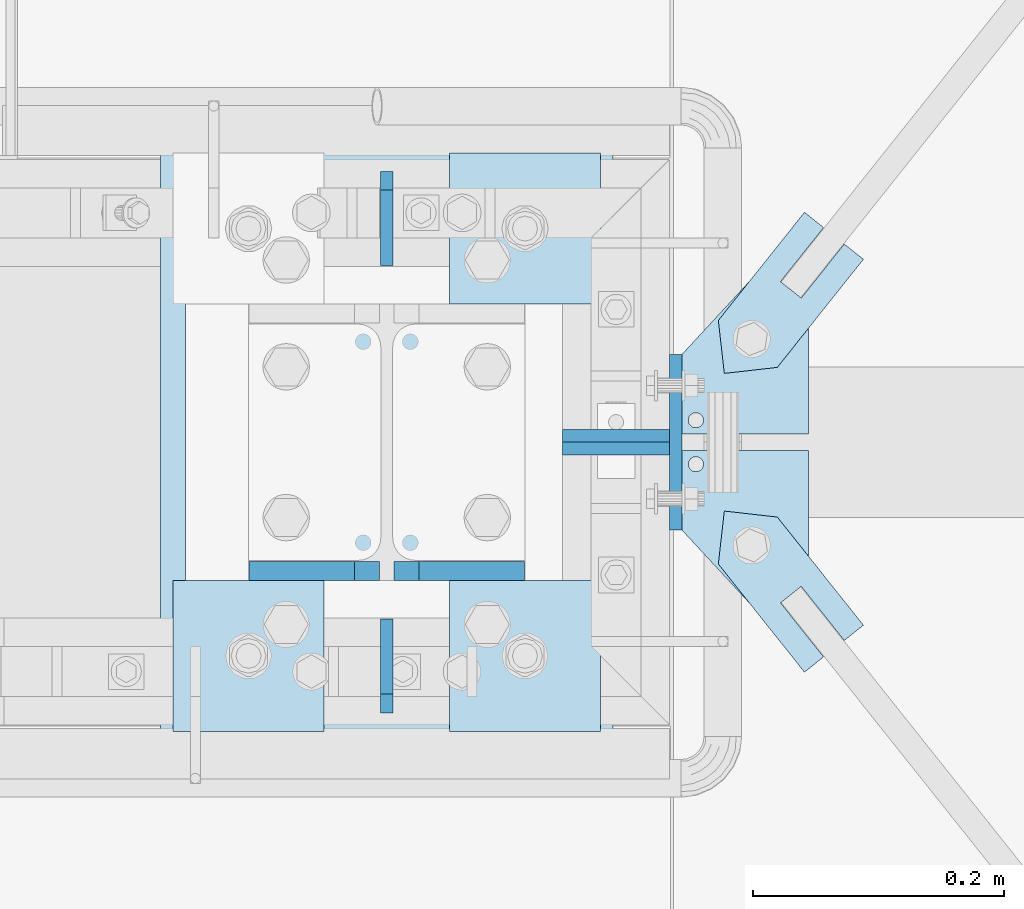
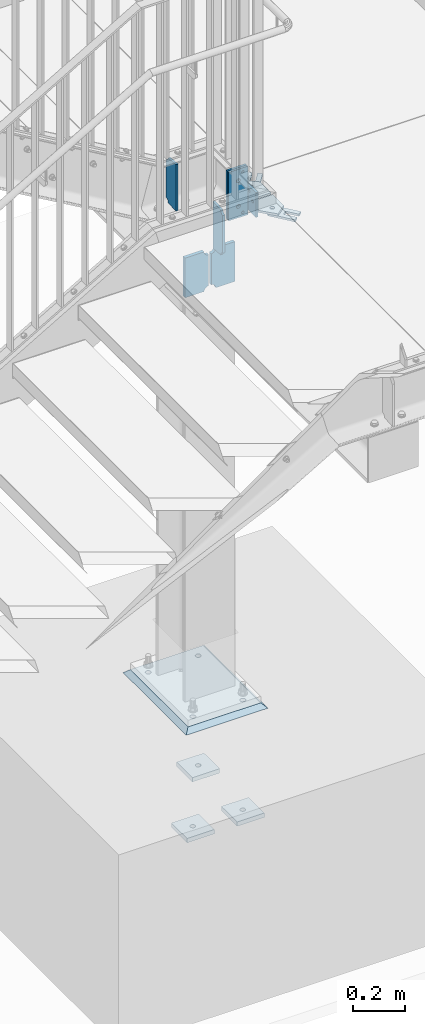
# One storey, part 24 of 145: 15 plates, 41 openings.
"""IFC2X3 building model written with IfcOpenShell, lengths in millimetres."""

from ifc_helpers import new_model, entity, si_unit, converted_unit, point, frame, frame_2d, origin, origin_with_axes, origin_2d_with_axis, place, context, project, spatial, polyline, circle_curve, line_curve, trimmed, segment, composite_curve, circle, outline, extrude, material, layer, layer_set, element, save


model = new_model("IFC2X3")

# Units and contexts
model_context = context("Model", 3, precision=1e-09, world=origin_with_axes())
ifc_project = project(units=[si_unit("LENGTHUNIT", "METRE", prefix="MILLI"), si_unit("AREAUNIT", "SQUARE_METRE"), si_unit("VOLUMEUNIT", "CUBIC_METRE"), converted_unit("PLANEANGLEUNIT", "DEGREE", entity("IfcPlaneAngleMeasure", 0.01745329), si_unit("PLANEANGLEUNIT", "RADIAN"), dimensions=[0, 0, 0, 0, 0, 0, 0])], contexts=[model_context])

# Site, building, storey
site_placement = place(None, origin_with_axes())
site = spatial("IfcSite", under=ifc_project, at=site_placement, Name="BZ1 Grund- und Mittelschule 85716 Unterschlei?heim", CompositionType="ELEMENT")
building_placement = place(site_placement, origin_with_axes())
building = spatial("IfcBuilding", under=site, at=building_placement, Name="Struktur 1", CompositionType="ELEMENT")
storey_placement = place(building_placement, origin_with_axes())
storey = spatial("IfcBuildingStorey", under=building, at=storey_placement, Name="Default Storey", CompositionType="ELEMENT", Elevation=0.0)

# Plate, openings
ifc_material = material(Name="S235JR")
ifc_layer_1 = layer(ifc_material, 15.0)
ifc_layer_set_1 = layer_set([ifc_layer_1], Name="S235JR")
plate_1_placement = place(None, frame((20205.09472732, -1790.002, 1171.136364), z_axis=(0.0, 1.0, 0.0), x_axis=(-1.0, 0.0, 0.0)))
plate_1 = element("IfcPlate", 1, at=plate_1_placement, inside=storey, material=ifc_layer_set_1, Name="Stiffener#0", ObjectType="Stiffener#0", context=model_context, shape_type="SweptSolid", body=[
    extrude(outline(polyline([(0.0, 0.0), (104.0, 0.0), (104.0, 185.0), (0.0, 185.0), (0.0, 0.0)])), origin_with_axes(), (0.0, 0.0, -1.0), 15.0),
])
opening_1_placement = place(plate_1_placement, frame((0.0, 185.0, 0.01), z_axis=(0.0, 0.0, 1.0), x_axis=(0.0, -1.0, 0.0)))
element("IfcOpeningElement", 2, at=opening_1_placement, cuts=plate_1, ObjectType="Opening", context=model_context, shape_type="SweptSolid", body=[
    extrude(outline(composite_curve([segment(trimmed(line_curve((0.0, 0.0), (1.0, 0.0), 20.0), [point((0.0, 0.0))], [point((20.0, 0.0))], True, "CARTESIAN"), True, "CONTINUOUS"), segment(trimmed(circle_curve(origin_2d_with_axis(), 20.0), [point((20.0, 0.0))], [point((0.0, 20.0))], True, "CARTESIAN"), True, "CONTINUOUS"), segment(trimmed(line_curve((0.0, 20.0), (0.0, -1.0), 20.0), [point((0.0, 20.0))], [point((0.0, 0.0))], True, "CARTESIAN"), True, "CONTINUOUS")], self_intersect=False)), origin(), (0.0, 0.0, -1.0), 15.02),
])
opening_2_placement = place(plate_1_placement, frame((0.0, 0.0, 0.01), z_axis=(0.0, 0.0, 1.0), x_axis=(1.0, 0.0, 0.0)))
element("IfcOpeningElement", 3, at=opening_2_placement, cuts=plate_1, ObjectType="Opening", context=model_context, shape_type="SweptSolid", body=[
    extrude(outline(composite_curve([segment(trimmed(line_curve((0.0, 0.0), (1.0, 0.0), 20.0), [point((0.0, 0.0))], [point((20.0, 0.0))], True, "CARTESIAN"), True, "CONTINUOUS"), segment(trimmed(circle_curve(origin_2d_with_axis(), 20.0), [point((20.0, 0.0))], [point((0.0, 20.0))], True, "CARTESIAN"), True, "CONTINUOUS"), segment(trimmed(line_curve((0.0, 20.0), (0.0, -1.0), 20.0), [point((0.0, 20.0))], [point((0.0, 0.0))], True, "CARTESIAN"), True, "CONTINUOUS")], self_intersect=False)), origin(), (0.0, 0.0, -1.0), 15.02),
])

plate_2_placement = place(None, frame((20320.59472732, -1790.002, 1171.136364), z_axis=(0.0, 1.0, 0.0), x_axis=(-1.0, 0.0, 0.0)))
plate_2 = element("IfcPlate", 4, at=plate_2_placement, inside=storey, material=ifc_layer_set_1, Name="Stiffener#1", ObjectType="Stiffener#1", context=model_context, shape_type="SweptSolid", body=[
    extrude(outline(polyline([(0.0, 0.0), (104.0, 0.0), (104.0, 185.0), (0.0, 185.0), (0.0, 0.0)])), origin_with_axes(), (0.0, 0.0, -1.0), 15.0),
])
opening_3_placement = place(plate_2_placement, frame((104.0, 185.0, 0.01), z_axis=(0.0, 0.0, 1.0), x_axis=(-1.0, 0.0, 0.0)))
element("IfcOpeningElement", 5, at=opening_3_placement, cuts=plate_2, ObjectType="Opening", context=model_context, shape_type="SweptSolid", body=[
    extrude(outline(composite_curve([segment(trimmed(line_curve((0.0, 0.0), (1.0, 0.0), 20.0), [point((0.0, 0.0))], [point((20.0, 0.0))], True, "CARTESIAN"), True, "CONTINUOUS"), segment(trimmed(circle_curve(origin_2d_with_axis(), 20.0), [point((20.0, 0.0))], [point((0.0, 20.0))], True, "CARTESIAN"), True, "CONTINUOUS"), segment(trimmed(line_curve((0.0, 20.0), (0.0, -1.0), 20.0), [point((0.0, 20.0))], [point((0.0, 0.0))], True, "CARTESIAN"), True, "CONTINUOUS")], self_intersect=False)), origin(), (0.0, 0.0, -1.0), 15.02),
])
opening_4_placement = place(plate_2_placement, frame((104.0, 0.0, 0.01), z_axis=(0.0, 0.0, 1.0), x_axis=(0.0, 1.0, 0.0)))
element("IfcOpeningElement", 6, at=opening_4_placement, cuts=plate_2, ObjectType="Opening", context=model_context, shape_type="SweptSolid", body=[
    extrude(outline(composite_curve([segment(trimmed(line_curve((0.0, 0.0), (1.0, 0.0), 20.0), [point((0.0, 0.0))], [point((20.0, 0.0))], True, "CARTESIAN"), True, "CONTINUOUS"), segment(trimmed(circle_curve(origin_2d_with_axis(), 20.0), [point((20.0, 0.0))], [point((0.0, 20.0))], True, "CARTESIAN"), True, "CONTINUOUS"), segment(trimmed(line_curve((0.0, 20.0), (0.0, -1.0), 20.0), [point((0.0, 20.0))], [point((0.0, 0.0))], True, "CARTESIAN"), True, "CONTINUOUS")], self_intersect=False)), origin(), (0.0, 0.0, -1.0), 15.02),
])

ifc_layer_2 = layer(ifc_material, 10.0)
ifc_layer_set_2 = layer_set([ifc_layer_2], Name="S235JR")
plate_3_placement = place(None, frame((20393.34472732, -1695.002, 1493.6363644), z_axis=(0.0, -1.0, 0.0), x_axis=(1.0, 0.0, 0.0)))
plate_3 = element("IfcPlate", 7, at=plate_3_placement, inside=storey, material=ifc_layer_set_2, Name="-", ObjectType="-", context=model_context, shape_type="SweptSolid", body=[
    extrude(outline(polyline([(-42.5, -113.0), (42.5, -113.0), (42.5, 113.0), (-42.5, 113.0), (-42.5, -113.0)])), origin_with_axes(), (0.0, 0.0, 1.0), 10.0),
])
opening_5_placement = place(plate_3_placement, frame((20.0, 94.0, -0.5), z_axis=(0.0, 0.0, 1.0), x_axis=(0.0, 1.0, 0.0)))
element("IfcOpeningElement", 8, at=opening_5_placement, cuts=plate_3, ObjectType="Opening", context=model_context, shape_type="SweptSolid", body=[
    extrude(circle(Radius=6.001, at=origin_2d_with_axis()), origin(), (0.0, 0.0, 1.0), 11.0),
])
opening_6_placement = place(plate_3_placement, frame((20.0, -94.0, -0.5), z_axis=(0.0, 0.0, 1.0), x_axis=(0.0, 1.0, 0.0)))
element("IfcOpeningElement", 9, at=opening_6_placement, cuts=plate_3, ObjectType="Opening", context=model_context, shape_type="SweptSolid", body=[
    extrude(circle(Radius=6.001, at=origin_2d_with_axis()), origin(), (0.0, 0.0, 1.0), 11.0),
])
opening_7_placement = place(plate_3_placement, frame((0.0, 0.0, -0.5), z_axis=(0.0, 0.0, 1.0), x_axis=(1.0, 0.0, 0.0)))
element("IfcOpeningElement", 10, at=opening_7_placement, cuts=plate_3, ObjectType="Opening", context=model_context, shape_type="SweptSolid", body=[
    extrude(circle(Radius=9.001, at=frame_2d((0.0, 60.0), x_axis=(1.0, 0.0))), origin(), (0.0, 0.0, 1.0), 11.0),
])
opening_8_placement = place(plate_3_placement, frame((0.0, 0.0, -0.5), z_axis=(0.0, 0.0, 1.0), x_axis=(1.0, 0.0, 0.0)))
element("IfcOpeningElement", 11, at=opening_8_placement, cuts=plate_3, ObjectType="Opening", context=model_context, shape_type="SweptSolid", body=[
    extrude(circle(Radius=9.001, at=frame_2d((0.0, -60.0), x_axis=(1.0, 0.0))), origin(), (0.0, 0.0, 1.0), 11.0),
])

plate_4_placement = place(None, frame((20393.34472732, -1685.002, 1493.6363644), z_axis=(0.0, -1.0, 0.0), x_axis=(1.0, 0.0, 0.0)))
plate_4 = element("IfcPlate", 12, at=plate_4_placement, inside=storey, material=ifc_layer_set_2, Name="-", ObjectType="-", context=model_context, shape_type="SweptSolid", body=[
    extrude(outline(polyline([(-42.5, -113.0), (42.5, -113.0), (42.5, 113.0), (-42.5, 113.0), (-42.5, -113.0)])), origin_with_axes(), (0.0, 0.0, 1.0), 10.0),
])
opening_9_placement = place(plate_4_placement, frame((20.0, 94.0, -0.5), z_axis=(0.0, 0.0, 1.0), x_axis=(0.0, 1.0, 0.0)))
element("IfcOpeningElement", 13, at=opening_9_placement, cuts=plate_4, ObjectType="Opening", context=model_context, shape_type="SweptSolid", body=[
    extrude(circle(Radius=6.001, at=origin_2d_with_axis()), origin(), (0.0, 0.0, 1.0), 11.0),
])
opening_10_placement = place(plate_4_placement, frame((20.0, -94.0, -0.5), z_axis=(0.0, 0.0, 1.0), x_axis=(0.0, 1.0, 0.0)))
element("IfcOpeningElement", 14, at=opening_10_placement, cuts=plate_4, ObjectType="Opening", context=model_context, shape_type="SweptSolid", body=[
    extrude(circle(Radius=6.001, at=origin_2d_with_axis()), origin(), (0.0, 0.0, 1.0), 11.0),
])
opening_11_placement = place(plate_4_placement, frame((0.0, 0.0, -0.5), z_axis=(0.0, 0.0, 1.0), x_axis=(1.0, 0.0, 0.0)))
element("IfcOpeningElement", 15, at=opening_11_placement, cuts=plate_4, ObjectType="Opening", context=model_context, shape_type="SweptSolid", body=[
    extrude(circle(Radius=9.001, at=frame_2d((0.0, 60.0), x_axis=(1.0, 0.0))), origin(), (0.0, 0.0, 1.0), 11.0),
])
opening_12_placement = place(plate_4_placement, frame((0.0, 0.0, -0.5), z_axis=(0.0, 0.0, 1.0), x_axis=(1.0, 0.0, 0.0)))
element("IfcOpeningElement", 16, at=opening_12_placement, cuts=plate_4, ObjectType="Opening", context=model_context, shape_type="SweptSolid", body=[
    extrude(circle(Radius=9.001, at=frame_2d((0.0, -60.0), x_axis=(1.0, 0.0))), origin(), (0.0, 0.0, 1.0), 11.0),
])

plate_5_placement = place(None, frame((20590.158282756, -1549.412851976, 1413.6363644), z_axis=(0.0, 0.0, -1.0), x_axis=(-0.623020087, -0.782205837, 0.0)))
plate_5 = element("IfcPlate", 17, at=plate_5_placement, inside=storey, material=ifc_layer_set_2, Name="-", ObjectType="-", context=model_context, shape_type="SweptSolid", body=[
    extrude(outline(polyline([(0.0, 0.0), (140.0, 0.0), (140.0, 60.0), (1e-09, 60.000000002), (1e-09, 40.5), (55.000000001, 40.499999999), (55.0, 19.499999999), (0.0, 19.5), (0.0, 0.0)])), origin_with_axes(), (0.0, 0.0, -1.0), 10.0),
])
opening_13_placement = place(plate_5_placement, frame((140.0, 0.0, 0.01), z_axis=(0.0, 0.0, 1.0), x_axis=(0.0, 1.0, 0.0)))
element("IfcOpeningElement", 18, at=opening_13_placement, cuts=plate_5, ObjectType="Opening", context=model_context, shape_type="SweptSolid", body=[
    extrude(outline(composite_curve([segment(trimmed(line_curve((0.0, 0.0), (1.0, 0.0), 30.0), [point((0.0, 0.0))], [point((30.0, 0.0))], True, "CARTESIAN"), True, "CONTINUOUS"), segment(trimmed(circle_curve(frame_2d((30.0, 30.0), x_axis=(-1.0, 0.0)), 30.0), [point((30.0, 0.0))], [point((0.0, 30.0))], False, "CARTESIAN"), True, "CONTINUOUS"), segment(trimmed(line_curve((0.0, 30.0), (0.0, -1.0), 30.0), [point((0.0, 30.0))], [point((0.0, 0.0))], True, "CARTESIAN"), True, "CONTINUOUS")], self_intersect=False)), origin(), (0.0, 0.0, -1.0), 10.02),
])
opening_14_placement = place(plate_5_placement, frame((140.0, 60.0, 0.01), z_axis=(0.0, 0.0, 1.0), x_axis=(-1.0, 0.0, 0.0)))
element("IfcOpeningElement", 19, at=opening_14_placement, cuts=plate_5, ObjectType="Opening", context=model_context, shape_type="SweptSolid", body=[
    extrude(outline(composite_curve([segment(trimmed(line_curve((0.0, 0.0), (1.0, 0.0), 30.0), [point((0.0, 0.0))], [point((30.0, 0.0))], True, "CARTESIAN"), True, "CONTINUOUS"), segment(trimmed(circle_curve(frame_2d((30.0, 30.0), x_axis=(-1.0, 0.0)), 30.0), [point((30.0, 0.0))], [point((0.0, 30.0))], False, "CARTESIAN"), True, "CONTINUOUS"), segment(trimmed(line_curve((0.0, 30.0), (0.0, -1.0), 30.0), [point((0.0, 30.0))], [point((0.0, 0.0))], True, "CARTESIAN"), True, "CONTINUOUS")], self_intersect=False)), origin(), (0.0, 0.0, -1.0), 10.02),
])
opening_15_placement = place(plate_5_placement, frame((114.001, 29.999999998, 0.5), z_axis=(0.0, 0.0, 1.0), x_axis=(1.0, 0.0, 0.0)))
element("IfcOpeningElement", 20, at=opening_15_placement, cuts=plate_5, ObjectType="Opening", context=model_context, shape_type="SweptSolid", body=[
    extrude(circle(Radius=9.001, at=frame_2d((-9.001, 0.0), x_axis=(1.0, 0.0))), origin(), (0.0, 0.0, -1.0), 11.0),
])

plate_6_placement = place(None, frame((20423.318468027, -1584.296587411, 1433.6363644), z_axis=(0.0, 0.0, 1.0), x_axis=(0.223691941, -0.974659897, 0.0)))
plate_6 = element("IfcPlate", 21, at=plate_6_placement, inside=storey, material=ifc_layer_set_2, Name="-", ObjectType="-", context=model_context, shape_type="SweptSolid", body=[
    extrude(outline(polyline([(44.712875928, 12.849968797), (106.603779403, -1.354469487), (129.13003869, 96.795877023), (46.932350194, 115.660878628), (0.0, 78.279673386), (44.712875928, 12.849968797)])), origin_with_axes(), (0.0, 0.0, -1.0), 10.0),
])
opening_16_placement = place(plate_6_placement, frame((106.603779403, -1.354469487, -10.5), z_axis=(0.0, 0.0, 1.0), x_axis=(-0.223691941, -0.974659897, 0.0)))
element("IfcOpeningElement", 22, at=opening_16_placement, cuts=plate_6, ObjectType="Opening", context=model_context, shape_type="SweptSolid", body=[
    extrude(circle(Radius=6.001, at=frame_2d((-11.0, -11.0), x_axis=(1.0, 0.0))), origin(), (0.0, 0.0, 1.0), 11.0),
])
opening_17_placement = place(plate_6_placement, frame((50.879681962, 62.552436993, -10.5), z_axis=(0.0, 0.0, -1.0), x_axis=(-1.0, 0.0, 0.0)))
element("IfcOpeningElement", 23, at=opening_17_placement, cuts=plate_6, ObjectType="Opening", context=model_context, shape_type="SweptSolid", body=[
    extrude(circle(Radius=9.001, at=frame_2d((5.607803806, 7.040634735), x_axis=(1.0, 0.0))), origin(), (0.0, 0.0, -1.0), 11.0),
])

plate_7_placement = place(None, frame((20590.158282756, -1840.591148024, 1413.6363644), z_axis=(0.0, 0.0, 1.0), x_axis=(-0.623020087, 0.782205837, 0.0)))
plate_7 = element("IfcPlate", 24, at=plate_7_placement, inside=storey, material=ifc_layer_set_2, Name="-", ObjectType="-", context=model_context, shape_type="SweptSolid", body=[
    extrude(outline(polyline([(0.0, 0.0), (140.0, 0.0), (140.0, 60.0), (1e-09, 60.000000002), (1e-09, 40.5), (55.000000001, 40.499999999), (55.0, 19.499999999), (0.0, 19.5), (0.0, 0.0)])), origin_with_axes(), (0.0, 0.0, 1.0), 10.0),
])
opening_18_placement = place(plate_7_placement, frame((0.0, 0.0, -0.01), z_axis=(0.0, 0.0, 1.0), x_axis=(1.0, 0.0, 0.0)))
element("IfcOpeningElement", 25, at=opening_18_placement, cuts=plate_7, ObjectType="Opening", context=model_context, shape_type="SweptSolid", body=[
    extrude(outline(composite_curve([segment(trimmed(line_curve((140.0, 0.0), (0.0, 1.0), 30.0), [point((140.0, 0.0))], [point((140.0, 30.0))], True, "CARTESIAN"), True, "CONTINUOUS"), segment(trimmed(circle_curve(frame_2d((110.0, 30.0), x_axis=(-1.0, 0.0)), 30.0), [point((140.0, 30.0))], [point((110.0, 0.0))], False, "CARTESIAN"), True, "CONTINUOUS"), segment(trimmed(line_curve((110.0, 0.0), (1.0, 0.0), 30.0), [point((110.0, 0.0))], [point((140.0, 0.0))], True, "CARTESIAN"), True, "CONTINUOUS")], self_intersect=False)), origin(), (0.0, 0.0, 1.0), 10.02),
])
opening_19_placement = place(plate_7_placement, frame((0.0, 0.0, -0.01), z_axis=(0.0, 0.0, 1.0), x_axis=(1.0, 0.0, 0.0)))
element("IfcOpeningElement", 26, at=opening_19_placement, cuts=plate_7, ObjectType="Opening", context=model_context, shape_type="SweptSolid", body=[
    extrude(outline(composite_curve([segment(trimmed(line_curve((140.0, 60.0), (-1.0, 0.0), 30.0), [point((140.0, 60.0))], [point((110.0, 60.0))], True, "CARTESIAN"), True, "CONTINUOUS"), segment(trimmed(circle_curve(frame_2d((110.0, 30.0), x_axis=(-1.0, 0.0)), 30.0), [point((110.0, 60.0))], [point((140.0, 30.0))], False, "CARTESIAN"), True, "CONTINUOUS"), segment(trimmed(line_curve((140.0, 30.0), (0.0, 1.0), 30.0), [point((140.0, 30.0))], [point((140.0, 60.0))], True, "CARTESIAN"), True, "CONTINUOUS")], self_intersect=False)), origin(), (0.0, 0.0, 1.0), 10.02),
])
opening_20_placement = place(plate_7_placement, frame((105.0, 29.999999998, -0.5), z_axis=(0.0, 0.0, 1.0), x_axis=(-1.0, 0.0, 0.0)))
element("IfcOpeningElement", 27, at=opening_20_placement, cuts=plate_7, ObjectType="Opening", context=model_context, shape_type="SweptSolid", body=[
    extrude(circle(Radius=9.001, at=origin_2d_with_axis()), origin(), (0.0, 0.0, 1.0), 11.0),
])

plate_8_placement = place(None, frame((20423.318468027, -1805.707412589, 1433.6363644), z_axis=(0.0, 0.0, -1.0), x_axis=(0.223691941, 0.974659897, 0.0)))
plate_8 = element("IfcPlate", 28, at=plate_8_placement, inside=storey, material=ifc_layer_set_2, Name="-", ObjectType="-", context=model_context, shape_type="SweptSolid", body=[
    extrude(outline(polyline([(44.712875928, 12.849968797), (106.603779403, -1.354469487), (129.13003869, 96.795877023), (46.932350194, 115.660878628), (0.0, 78.279673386), (44.712875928, 12.849968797)])), origin_with_axes(), (0.0, 0.0, 1.0), 10.0),
])
opening_21_placement = place(plate_8_placement, frame((99.685507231, 17.676334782, 10.5), z_axis=(0.0, 0.0, 1.0), x_axis=(1.0, 0.0, 0.0)))
element("IfcOpeningElement", 29, at=opening_21_placement, cuts=plate_8, ObjectType="Opening", context=model_context, shape_type="SweptSolid", body=[
    extrude(circle(Radius=6.001, at=frame_2d((-1.342375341, -5.848934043), x_axis=(1.0, 0.0))), origin(), (0.0, 0.0, -1.0), 11.0),
])
opening_22_placement = place(plate_8_placement, frame((45.271878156, 69.593071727, 10.5), z_axis=(0.0, 0.0, -1.0), x_axis=(-0.623020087, 0.782205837, 0.0)))
element("IfcOpeningElement", 30, at=opening_22_placement, cuts=plate_8, ObjectType="Opening", context=model_context, shape_type="SweptSolid", body=[
    extrude(circle(Radius=9.001, at=origin_2d_with_axis()), origin(), (0.0, 0.0, 1.0), 11.0),
])

plate_9_placement = place(None, frame((20215.84472732, -1835.502, 1384.781098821), z_axis=(-1.0, 0.0, 0.0), x_axis=(0.0, -0.996815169, 0.079746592)))
plate_9 = element("IfcPlate", 31, at=plate_9_placement, inside=storey, material=ifc_layer_set_2, Name="Stiffener#1", ObjectType="Stiffener#1", context=model_context, shape_type="SweptSolid", body=[
    extrude(outline(polyline([(0.0, 0.0), (75.239625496, 0.0), (91.644322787, 205.05517107), (17.361672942, 217.017159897), (0.0, 0.0)])), origin_with_axes(), (0.0, 0.0, 1.0), 10.0),
])
opening_23_placement = place(plate_9_placement, frame((0.0, 0.0, -0.01), z_axis=(0.0, 0.0, 1.0), x_axis=(1.0, 0.0, 0.0)))
element("IfcOpeningElement", 32, at=opening_23_placement, cuts=plate_9, ObjectType="Opening", context=model_context, shape_type="SweptSolid", body=[
    extrude(outline(composite_curve([segment(trimmed(line_curve((91.644322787, 205.05517107), (-0.987280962, 0.158985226), 15.0), [point((91.644322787, 205.05517107))], [point((76.835108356, 207.439949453))], True, "CARTESIAN"), True, "CONTINUOUS"), segment(trimmed(circle_curve(frame_2d((91.644322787, 205.05517107), x_axis=(1.0, 0.0)), 15.0), [point((76.835108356, 207.439949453))], [point((90.448123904, 190.102943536))], True, "CARTESIAN"), True, "CONTINUOUS"), segment(trimmed(line_curve((90.448123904, 190.102943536), (0.079746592, 0.996815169), 15.0), [point((90.448123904, 190.102943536))], [point((91.644322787, 205.05517107))], True, "CARTESIAN"), True, "CONTINUOUS")], self_intersect=False)), origin(), (0.0, 0.0, 1.0), 10.02),
])
opening_24_placement = place(plate_9_placement, frame((0.0, 0.0, -0.01), z_axis=(0.0, 0.0, 1.0), x_axis=(1.0, 0.0, 0.0)))
element("IfcOpeningElement", 33, at=opening_24_placement, cuts=plate_9, ObjectType="Opening", context=model_context, shape_type="SweptSolid", body=[
    extrude(outline(composite_curve([segment(trimmed(line_curve((75.239625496, 0.0), (0.079746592, 0.996815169), 15.0), [point((75.239625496, 0.0))], [point((76.435824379, 14.952227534))], True, "CARTESIAN"), True, "CONTINUOUS"), segment(trimmed(circle_curve(frame_2d((75.239625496, 0.0), x_axis=(1.0, 0.0)), 15.0), [point((76.435824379, 14.952227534))], [point((60.239625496, 0.0))], True, "CARTESIAN"), True, "CONTINUOUS"), segment(trimmed(line_curve((60.239625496, 0.0), (1.0, 0.0), 15.0), [point((60.239625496, 0.0))], [point((75.239625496, 0.0))], True, "CARTESIAN"), True, "CONTINUOUS")], self_intersect=False)), origin(), (0.0, 0.0, 1.0), 10.02),
])

plate_10_placement = place(None, frame((20215.84472732, -1554.502, 1384.781098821), z_axis=(1.0, 0.0, 0.0), x_axis=(0.0, 0.996815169, 0.079746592)))
plate_10 = element("IfcPlate", 34, at=plate_10_placement, inside=storey, material=ifc_layer_set_2, Name="Stiffener#1", ObjectType="Stiffener#1", context=model_context, shape_type="SweptSolid", body=[
    extrude(outline(polyline([(0.0, 0.0), (75.239625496, 0.0), (91.644322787, 205.05517107), (17.361672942, 217.017159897), (0.0, 0.0)])), origin_with_axes(), (0.0, 0.0, -1.0), 10.0),
])
opening_25_placement = place(plate_10_placement, frame((91.644322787, 205.05517107, 0.01), z_axis=(0.0, 0.0, 1.0), x_axis=(-0.987280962, 0.158985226, 0.0)))
element("IfcOpeningElement", 35, at=opening_25_placement, cuts=plate_10, ObjectType="Opening", context=model_context, shape_type="SweptSolid", body=[
    extrude(outline(composite_curve([segment(trimmed(line_curve((0.0, 0.0), (1.0, 0.0), 15.0), [point((0.0, 0.0))], [point((15.0, 0.0))], True, "CARTESIAN"), True, "CONTINUOUS"), segment(trimmed(circle_curve(origin_2d_with_axis(), 15.0), [point((15.0, 0.0))], [point((-1.196198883, 14.952227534))], True, "CARTESIAN"), True, "CONTINUOUS"), segment(trimmed(line_curve((-1.196198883, 14.952227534), (0.079746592, -0.996815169), 15.0), [point((-1.196198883, 14.952227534))], [point((0.0, 0.0))], True, "CARTESIAN"), True, "CONTINUOUS")], self_intersect=False)), origin(), (0.0, 0.0, -1.0), 10.02),
])
opening_26_placement = place(plate_10_placement, frame((75.239625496, 0.0, 0.01), z_axis=(0.0, 0.0, 1.0), x_axis=(0.079746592, 0.996815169, 0.0)))
element("IfcOpeningElement", 36, at=opening_26_placement, cuts=plate_10, ObjectType="Opening", context=model_context, shape_type="SweptSolid", body=[
    extrude(outline(composite_curve([segment(trimmed(line_curve((0.0, 0.0), (1.0, 0.0), 15.0), [point((0.0, 0.0))], [point((15.0, 0.0))], True, "CARTESIAN"), True, "CONTINUOUS"), segment(trimmed(circle_curve(origin_2d_with_axis(), 15.0), [point((15.0, 0.0))], [point((-1.196198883, 14.952227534))], True, "CARTESIAN"), True, "CONTINUOUS"), segment(trimmed(line_curve((-1.196198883, 14.952227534), (0.079746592, -0.996815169), 15.0), [point((-1.196198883, 14.952227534))], [point((0.0, 0.0))], True, "CARTESIAN"), True, "CONTINUOUS")], self_intersect=False)), origin(), (0.0, 0.0, -1.0), 10.02),
])

ifc_layer_3 = layer(ifc_material, 20.0)
ifc_layer_set_3 = layer_set([ifc_layer_3], Name="S235JR")
plate_11_placement = place(None, frame((20210.84472732, -1695.002, -760.0), z_axis=(0.0, 0.0, 1.0), x_axis=(-1.0, 0.0, 0.0)))
plate_11 = element("IfcPlate", 37, at=plate_11_placement, inside=storey, material=ifc_layer_set_3, Name="-", ObjectType="-", context=model_context, shape_type="SweptSolid", body=[
    extrude(outline(polyline([(-180.0, -240.0), (180.0, -240.0), (180.0, 240.0), (-180.0, 240.0), (-180.0, -240.0)])), origin_with_axes(), (0.0, 0.0, 1.0), 20.0),
])
opening_27_placement = place(plate_11_placement, frame((0.0, 0.0, -0.5), z_axis=(0.0, 0.0, 1.0), x_axis=(1.0, 0.0, 0.0)))
element("IfcOpeningElement", 38, at=opening_27_placement, cuts=plate_11, ObjectType="Opening", context=model_context, shape_type="SweptSolid", body=[
    extrude(circle(Radius=11.501, at=frame_2d((110.0, 170.0), x_axis=(1.0, 0.0))), origin(), (0.0, 0.0, 1.0), 21.0),
])
opening_28_placement = place(plate_11_placement, frame((0.0, 0.0, -0.5), z_axis=(0.0, 0.0, 1.0), x_axis=(1.0, 0.0, 0.0)))
element("IfcOpeningElement", 39, at=opening_28_placement, cuts=plate_11, ObjectType="Opening", context=model_context, shape_type="SweptSolid", body=[
    extrude(circle(Radius=11.501, at=frame_2d((-110.0, 170.0), x_axis=(1.0, 0.0))), origin(), (0.0, 0.0, 1.0), 21.0),
])
opening_29_placement = place(plate_11_placement, frame((0.0, 0.0, -0.5), z_axis=(0.0, 0.0, 1.0), x_axis=(1.0, 0.0, 0.0)))
element("IfcOpeningElement", 40, at=opening_29_placement, cuts=plate_11, ObjectType="Opening", context=model_context, shape_type="SweptSolid", body=[
    extrude(circle(Radius=11.501, at=frame_2d((110.0, -170.0), x_axis=(1.0, 0.0))), origin(), (0.0, 0.0, 1.0), 21.0),
])
opening_30_placement = place(plate_11_placement, frame((0.0, 0.0, -0.5), z_axis=(0.0, 0.0, 1.0), x_axis=(1.0, 0.0, 0.0)))
element("IfcOpeningElement", 41, at=opening_30_placement, cuts=plate_11, ObjectType="Opening", context=model_context, shape_type="SweptSolid", body=[
    extrude(circle(Radius=11.501, at=frame_2d((-110.0, -170.0), x_axis=(1.0, 0.0))), origin(), (0.0, 0.0, 1.0), 21.0),
])
opening_31_placement = place(plate_11_placement, frame((-180.0, -240.001, 20.0), z_axis=(0.0, 1.0, 0.0), x_axis=(1.0, 0.0, 0.0)))
element("IfcOpeningElement", 42, at=opening_31_placement, cuts=plate_11, ObjectType="Opening", context=model_context, shape_type="SweptSolid", body=[
    extrude(outline(polyline([(0.0, 0.0), (20.0, 0.0), (0.0, 20.0), (0.0, 0.0)])), origin(), (0.0, 0.0, 1.0), 480.022),
])
opening_32_placement = place(plate_11_placement, frame((180.001, -240.0, 20.0), z_axis=(-1.0, 0.0, 0.0), x_axis=(0.0, 1.0, 0.0)))
element("IfcOpeningElement", 43, at=opening_32_placement, cuts=plate_11, ObjectType="Opening", context=model_context, shape_type="SweptSolid", body=[
    extrude(outline(polyline([(0.0, 0.0), (20.0, 0.0), (0.0, 20.0), (0.0, 0.0)])), origin(), (0.0, 0.0, 1.0), 360.022),
])
opening_33_placement = place(plate_11_placement, frame((180.0, 240.001, 20.0), z_axis=(0.0, -1.0, 0.0), x_axis=(-1.0, 0.0, 0.0)))
element("IfcOpeningElement", 44, at=opening_33_placement, cuts=plate_11, ObjectType="Opening", context=model_context, shape_type="SweptSolid", body=[
    extrude(outline(polyline([(0.0, 0.0), (20.0, 0.0), (0.0, 20.0), (0.0, 0.0)])), origin(), (0.0, 0.0, 1.0), 480.022),
])
opening_34_placement = place(plate_11_placement, frame((-180.001, 240.0, 20.0), z_axis=(1.0, 0.0, 0.0), x_axis=(0.0, -1.0, 0.0)))
element("IfcOpeningElement", 45, at=opening_34_placement, cuts=plate_11, ObjectType="Opening", context=model_context, shape_type="SweptSolid", body=[
    extrude(outline(polyline([(0.0, 0.0), (20.0, 0.0), (0.0, 20.0), (0.0, 0.0)])), origin(), (0.0, 0.0, 1.0), 360.022),
])

# Plate, opening
plate_12_placement = place(None, frame((20320.844727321, -1525.002, -1270.0), z_axis=(0.0, 0.0, 1.0), x_axis=(-1.0, 0.0, 0.0)))
plate_12 = element("IfcPlate", 46, at=plate_12_placement, inside=storey, material=ifc_layer_set_3, Name="-", ObjectType="-", context=model_context, shape_type="SweptSolid", body=[
    extrude(outline(polyline([(-60.0, -60.0), (60.0, -60.0), (60.0, 60.0), (-60.0, 60.0), (-60.0, -60.0)])), origin_with_axes(), (0.0, 0.0, 1.0), 20.0),
])
opening_35_placement = place(plate_12_placement, frame((0.0, 0.0, -0.5), z_axis=(0.0, 0.0, 1.0), x_axis=(1.0, 0.0, 0.0)))
element("IfcOpeningElement", 47, at=opening_35_placement, cuts=plate_12, ObjectType="Opening", context=model_context, shape_type="SweptSolid", body=[
    extrude(circle(Radius=11.001, at=origin_2d_with_axis()), origin(), (0.0, 0.0, 1.0), 21.0),
])

plate_13_placement = place(None, frame((20100.844727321, -1865.002, -1270.0), z_axis=(0.0, 0.0, 1.0), x_axis=(-1.0, 0.0, 0.0)))
plate_13 = element("IfcPlate", 48, at=plate_13_placement, inside=storey, material=ifc_layer_set_3, Name="-", ObjectType="-", context=model_context, shape_type="SweptSolid", body=[
    extrude(outline(polyline([(-60.0, -60.0), (60.0, -60.0), (60.0, 60.0), (-60.0, 60.0), (-60.0, -60.0)])), origin_with_axes(), (0.0, 0.0, 1.0), 20.0),
])
opening_36_placement = place(plate_13_placement, frame((0.0, 0.0, -0.5), z_axis=(0.0, 0.0, 1.0), x_axis=(1.0, 0.0, 0.0)))
element("IfcOpeningElement", 49, at=opening_36_placement, cuts=plate_13, ObjectType="Opening", context=model_context, shape_type="SweptSolid", body=[
    extrude(circle(Radius=11.001, at=origin_2d_with_axis()), origin(), (0.0, 0.0, 1.0), 21.0),
])

plate_14_placement = place(None, frame((20320.844727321, -1865.002, -1270.0), z_axis=(0.0, 0.0, 1.0), x_axis=(-1.0, 0.0, 0.0)))
plate_14 = element("IfcPlate", 50, at=plate_14_placement, inside=storey, material=ifc_layer_set_3, Name="-", ObjectType="-", context=model_context, shape_type="SweptSolid", body=[
    extrude(outline(polyline([(-60.0, -60.0), (60.0, -60.0), (60.0, 60.0), (-60.0, 60.0), (-60.0, -60.0)])), origin_with_axes(), (0.0, 0.0, 1.0), 20.0),
])
opening_37_placement = place(plate_14_placement, frame((0.0, 0.0, -0.5), z_axis=(0.0, 0.0, 1.0), x_axis=(1.0, 0.0, 0.0)))
element("IfcOpeningElement", 51, at=opening_37_placement, cuts=plate_14, ObjectType="Opening", context=model_context, shape_type="SweptSolid", body=[
    extrude(circle(Radius=11.001, at=origin_2d_with_axis()), origin(), (0.0, 0.0, 1.0), 21.0),
])

# Plate, openings
plate_15_placement = place(None, frame((20445.84472732, -1695.002, 1461.1363644), z_axis=(-1.0, 0.0, 0.0), x_axis=(0.0, -1.0, 0.0)))
plate_15 = element("IfcPlate", 52, at=plate_15_placement, inside=storey, material=ifc_layer_set_2, Name="-", ObjectType="-", context=model_context, shape_type="SweptSolid", body=[
    extrude(outline(polyline([(-70.0, -57.5), (70.0, -57.5), (70.0, 57.5), (-70.0, 57.5), (-70.0, -57.5)])), origin_with_axes(), (0.0, 0.0, 1.0), 10.0),
])
opening_38_placement = place(plate_15_placement, frame((-19.5, 36.5, 10.5), z_axis=(0.0, 0.0, -1.0), x_axis=(0.0, -1.0, 0.0)))
element("IfcOpeningElement", 53, at=opening_38_placement, cuts=plate_15, ObjectType="Opening", context=model_context, shape_type="SweptSolid", body=[
    extrude(circle(Radius=6.001, at=origin_2d_with_axis()), origin(), (0.0, 0.0, 1.0), 11.0),
])
opening_39_placement = place(plate_15_placement, frame((19.5, 36.5, 10.5), z_axis=(0.0, 0.0, -1.0), x_axis=(0.0, -1.0, 0.0)))
element("IfcOpeningElement", 54, at=opening_39_placement, cuts=plate_15, ObjectType="Opening", context=model_context, shape_type="SweptSolid", body=[
    extrude(circle(Radius=6.001, at=origin_2d_with_axis()), origin(), (0.0, 0.0, 1.0), 11.0),
])
opening_40_placement = place(plate_15_placement, frame((45.0, 2.5, -0.5), z_axis=(0.0, 0.0, 1.0), x_axis=(1.0, 0.0, 0.0)))
element("IfcOpeningElement", 55, at=opening_40_placement, cuts=plate_15, ObjectType="Opening", context=model_context, shape_type="SweptSolid", body=[
    extrude(circle(Radius=7.001, at=origin_2d_with_axis()), origin(), (0.0, 0.0, 1.0), 11.0),
])
opening_41_placement = place(plate_15_placement, frame((-45.0, 2.5, -0.5), z_axis=(0.0, 0.0, 1.0), x_axis=(1.0, 0.0, 0.0)))
element("IfcOpeningElement", 56, at=opening_41_placement, cuts=plate_15, ObjectType="Opening", context=model_context, shape_type="SweptSolid", body=[
    extrude(circle(Radius=7.001, at=origin_2d_with_axis()), origin(), (0.0, 0.0, 1.0), 11.0),
])

save(model, "model.ifc")
